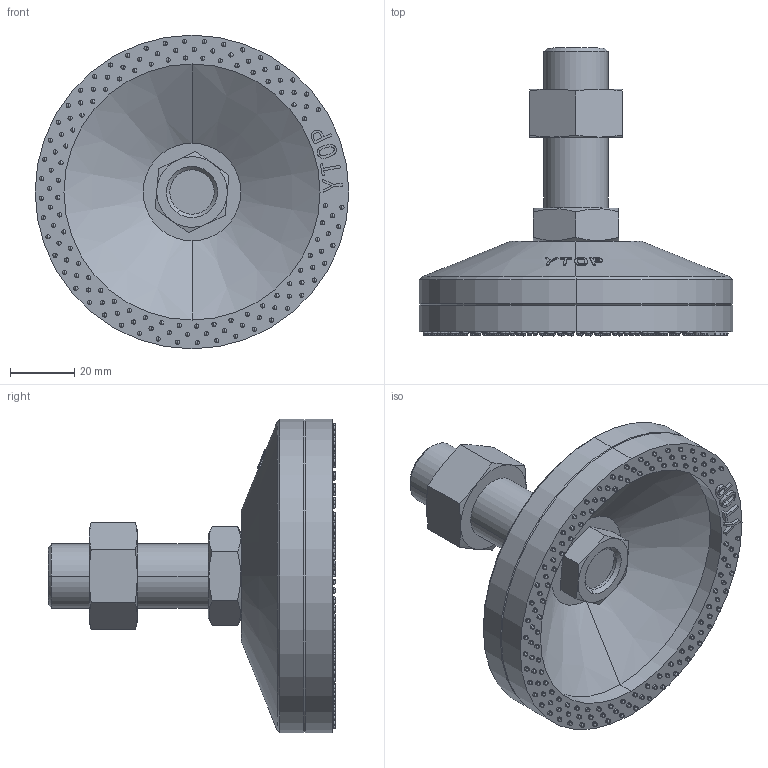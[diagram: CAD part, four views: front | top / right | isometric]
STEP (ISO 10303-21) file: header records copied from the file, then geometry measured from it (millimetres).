
FILE_DESCRIPTION (( 'STEP AP203' ), '1' );
FILE_NAME ('AH-100-2050-TPU.STEP', '2020-09-09T03:58:34', ( '' ), ( '' ), 'SwSTEP 2.0', 'SolidWorks 2016', '' );
FILE_SCHEMA (( 'CONFIG_CONTROL_DESIGN' ));
Length unit declared in the file: millimetre
Products named in the file (6): AH-100菁釱; 脚垫调节六角螺母M20; 脚垫锁紧六角薄螺母M16; 傲郈蹟裝M20炵蹈_M20X50; AH-100蝶菜; AH-100-2050-TPU
Assembly tree (5 placements, depth 2):
  AH-100-2050-TPU
    AH-100菁釱
    AH-100蝶菜
    傲郈蹟裝M20炵蹈_M20X50
    脚垫锁紧六角薄螺母M16
    脚垫调节六角螺母M20
Bounding box: 98 x 89.9 x 98 mm (x, y, z)
Volume: 140774.3 mm3; surface area: 49550.2 mm2
Topology: 5 solids, 5 shells, 723 faces, 2043 edges, 1215 vertices
Faces by surface type: cylinder 280, sphere 262, cone 66, plane 65, bspline 50
Entity records: 24946 total; most frequent: CARTESIAN_POINT 8540, DIRECTION 3559, ORIENTED_EDGE 3038, AXIS2_PLACEMENT_3D 1567, EDGE_CURVE 1519, VERTEX_POINT 953, CIRCLE 886, EDGE_LOOP 878
